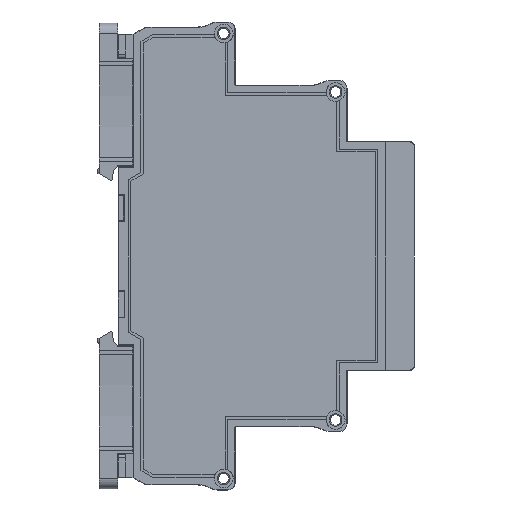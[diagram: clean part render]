
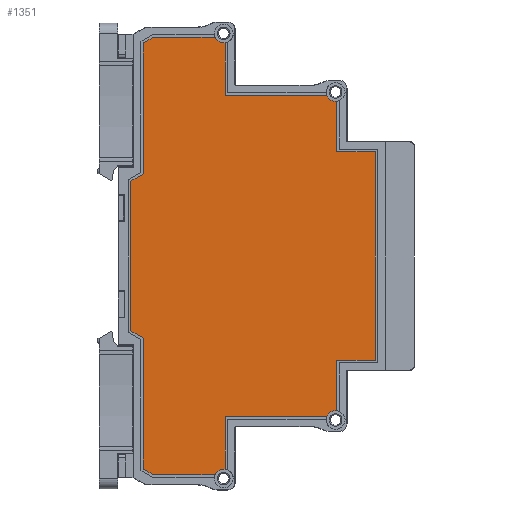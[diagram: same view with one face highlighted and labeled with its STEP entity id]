
A CAD part, front view. The second image highlights one B-rep face of the part: STEP entity #1351.
In plain terms, the highlighted planar face has unit normal (0, -1, 0) as drawn and (1, 0, 0) by its records, which use the part's own axes.
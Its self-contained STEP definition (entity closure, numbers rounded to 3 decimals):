
#1351=ADVANCED_FACE('',(#27280),#27282,.T.);
#27280=FACE_BOUND('',#27281,.T.);
#27281=EDGE_LOOP('',(#47124,#47125,#47126,#47127,#47128,#47129,#47130,#47131,#47132,
#47133,#47134,#47135,#47136,#47137,#47138,#47139,#47140,#47141,#47142,#47143,#47144,
#47145));
#27282=PLANE('',#27283);
#27283=AXIS2_PLACEMENT_3D('',#27284,#27285,#27286);
#27284=CARTESIAN_POINT('',(6.5,0.,0.));
#27285=DIRECTION('',(1.,0.,0.));
#27286=DIRECTION('',(0.,0.,-1.));
#47124=ORIENTED_EDGE('',*,*,#65601,.F.);
#47125=ORIENTED_EDGE('',*,*,#65602,.T.);
#47126=ORIENTED_EDGE('',*,*,#65519,.F.);
#47127=ORIENTED_EDGE('',*,*,#65603,.T.);
#47128=ORIENTED_EDGE('',*,*,#65604,.T.);
#47129=ORIENTED_EDGE('',*,*,#65605,.T.);
#47130=ORIENTED_EDGE('',*,*,#65606,.T.);
#47131=ORIENTED_EDGE('',*,*,#65607,.T.);
#47132=ORIENTED_EDGE('',*,*,#65503,.F.);
#47133=ORIENTED_EDGE('',*,*,#65608,.F.);
#47134=ORIENTED_EDGE('',*,*,#65609,.T.);
#47135=ORIENTED_EDGE('',*,*,#65513,.F.);
#47136=ORIENTED_EDGE('',*,*,#65610,.T.);
#47137=ORIENTED_EDGE('',*,*,#65611,.F.);
#47138=ORIENTED_EDGE('',*,*,#65612,.T.);
#47139=ORIENTED_EDGE('',*,*,#65613,.T.);
#47140=ORIENTED_EDGE('',*,*,#65614,.T.);
#47141=ORIENTED_EDGE('',*,*,#65615,.T.);
#47142=ORIENTED_EDGE('',*,*,#65616,.T.);
#47143=ORIENTED_EDGE('',*,*,#65617,.F.);
#47144=ORIENTED_EDGE('',*,*,#65618,.T.);
#47145=ORIENTED_EDGE('',*,*,#65529,.F.);
#65503=EDGE_CURVE('',#73736,#73721,#73738,.T.);
#65513=EDGE_CURVE('',#73756,#73741,#73758,.T.);
#65519=EDGE_CURVE('',#73768,#73770,#73771,.T.);
#65529=EDGE_CURVE('',#73788,#73790,#73791,.T.);
#65601=EDGE_CURVE('',#73929,#73788,#73930,.T.);
#65602=EDGE_CURVE('',#73929,#73770,#73931,.T.);
#65603=EDGE_CURVE('',#73768,#73932,#73933,.T.);
#65604=EDGE_CURVE('',#73932,#73934,#73935,.T.);
#65605=EDGE_CURVE('',#73934,#73936,#73937,.T.);
#65606=EDGE_CURVE('',#73936,#73938,#73939,.T.);
#65607=EDGE_CURVE('',#73938,#73721,#73940,.T.);
#65608=EDGE_CURVE('',#73941,#73736,#73942,.T.);
#65609=EDGE_CURVE('',#73941,#73741,#73943,.T.);
#65610=EDGE_CURVE('',#73756,#73944,#73945,.T.);
#65611=EDGE_CURVE('',#73946,#73944,#73947,.T.);
#65612=EDGE_CURVE('',#73946,#73948,#73949,.T.);
#65613=EDGE_CURVE('',#73948,#73950,#73951,.T.);
#65614=EDGE_CURVE('',#73950,#73952,#73953,.T.);
#65615=EDGE_CURVE('',#73952,#73954,#73955,.T.);
#65616=EDGE_CURVE('',#73954,#73956,#73957,.T.);
#65617=EDGE_CURVE('',#73958,#73956,#73959,.T.);
#65618=EDGE_CURVE('',#73958,#73790,#73960,.T.);
#73721=VERTEX_POINT('',#88055);
#73736=VERTEX_POINT('',#88088);
#73738=CIRCLE('',#88092,1.85);
#73741=VERTEX_POINT('',#88101);
#73756=VERTEX_POINT('',#88134);
#73758=CIRCLE('',#88138,1.85);
#73768=VERTEX_POINT('',#88162);
#73770=VERTEX_POINT('',#88166);
#73771=CIRCLE('',#88167,1.85);
#73788=VERTEX_POINT('',#88208);
#73790=VERTEX_POINT('',#88212);
#73791=CIRCLE('',#88213,1.85);
#73929=VERTEX_POINT('',#88517);
#73930=LINE('',#88518,#88519);
#73931=LINE('',#88521,#88522);
#73932=VERTEX_POINT('',#88524);
#73933=LINE('',#88525,#88526);
#73934=VERTEX_POINT('',#88528);
#73935=LINE('',#88529,#88530);
#73936=VERTEX_POINT('',#88532);
#73937=LINE('',#88533,#88534);
#73938=VERTEX_POINT('',#88536);
#73939=LINE('',#88537,#88538);
#73940=LINE('',#88540,#88541);
#73941=VERTEX_POINT('',#88543);
#73942=LINE('',#88544,#88545);
#73943=LINE('',#88547,#88548);
#73944=VERTEX_POINT('',#88550);
#73945=LINE('',#88551,#88552);
#73946=VERTEX_POINT('',#88554);
#73947=LINE('',#88555,#88556);
#73948=VERTEX_POINT('',#88558);
#73949=LINE('',#88559,#88560);
#73950=VERTEX_POINT('',#88562);
#73951=LINE('',#88563,#88564);
#73952=VERTEX_POINT('',#88566);
#73953=LINE('',#88567,#88568);
#73954=VERTEX_POINT('',#88570);
#73955=LINE('',#88571,#88572);
#73956=VERTEX_POINT('',#88574);
#73957=LINE('',#88575,#88576);
#73958=VERTEX_POINT('',#88578);
#73959=LINE('',#88579,#88580);
#73960=LINE('',#88582,#88583);
#88055=CARTESIAN_POINT('',(6.5,-30.541,38.985));
#88088=CARTESIAN_POINT('',(6.5,-31.7,37.015));
#88092=AXIS2_PLACEMENT_3D('',#88093,#88094,#88095);
#88093=CARTESIAN_POINT('',(6.5,-32.375,38.738));
#88094=DIRECTION('',(1.,0.,0.));
#88095=DIRECTION('',(0.,0.365,-0.931));
#88101=CARTESIAN_POINT('',(6.5,-42.103,16.897));
#88134=CARTESIAN_POINT('',(6.5,-43.2,14.953));
#88138=AXIS2_PLACEMENT_3D('',#88139,#88140,#88141);
#88139=CARTESIAN_POINT('',(6.5,-43.937,16.65));
#88140=DIRECTION('',(1.,0.,0.));
#88141=DIRECTION('',(0.,0.398,-0.917));
#88162=CARTESIAN_POINT('',(6.5,30.541,38.985));
#88166=CARTESIAN_POINT('',(6.5,31.7,37.015));
#88167=AXIS2_PLACEMENT_3D('',#88168,#88169,#88170);
#88168=CARTESIAN_POINT('',(6.5,32.375,38.738));
#88169=DIRECTION('',(1.,0.,0.));
#88170=DIRECTION('',(0.,-0.991,0.134));
#88208=CARTESIAN_POINT('',(6.5,42.103,16.897));
#88212=CARTESIAN_POINT('',(6.5,43.2,14.953));
#88213=AXIS2_PLACEMENT_3D('',#88214,#88215,#88216);
#88214=CARTESIAN_POINT('',(6.5,43.937,16.65));
#88215=DIRECTION('',(1.,0.,0.));
#88216=DIRECTION('',(0.,-0.991,0.134));
#88517=CARTESIAN_POINT('',(6.5,31.7,16.897));
#88518=CARTESIAN_POINT('',(6.5,31.7,16.897));
#88519=VECTOR('',#88520,1.);
#88520=DIRECTION('',(0.,1.,0.));
#88521=CARTESIAN_POINT('',(6.5,31.7,16.897));
#88522=VECTOR('',#88523,1.);
#88523=DIRECTION('',(0.,0.,1.));
#88524=CARTESIAN_POINT('',(6.5,20.6,38.985));
#88525=CARTESIAN_POINT('',(6.5,30.541,38.985));
#88526=VECTOR('',#88527,1.);
#88527=DIRECTION('',(0.,-1.,0.));
#88528=CARTESIAN_POINT('',(6.5,20.6,46.53));
#88529=CARTESIAN_POINT('',(6.5,20.6,38.985));
#88530=VECTOR('',#88531,1.);
#88531=DIRECTION('',(0.,0.,1.));
#88532=CARTESIAN_POINT('',(6.5,-20.6,46.53));
#88533=CARTESIAN_POINT('',(6.5,20.6,46.53));
#88534=VECTOR('',#88535,1.);
#88535=DIRECTION('',(0.,-1.,0.));
#88536=CARTESIAN_POINT('',(6.5,-20.6,38.985));
#88537=CARTESIAN_POINT('',(6.5,-20.6,46.53));
#88538=VECTOR('',#88539,1.);
#88539=DIRECTION('',(0.,0.,-1.));
#88540=CARTESIAN_POINT('',(6.5,-20.6,38.985));
#88541=VECTOR('',#88542,1.);
#88542=DIRECTION('',(0.,-1.,0.));
#88543=CARTESIAN_POINT('',(6.5,-31.7,16.897));
#88544=CARTESIAN_POINT('',(6.5,-31.7,16.897));
#88545=VECTOR('',#88546,1.);
#88546=DIRECTION('',(0.,0.,1.));
#88547=CARTESIAN_POINT('',(6.5,-31.7,16.897));
#88548=VECTOR('',#88549,1.);
#88549=DIRECTION('',(0.,-1.,0.));
#88550=CARTESIAN_POINT('',(6.5,-43.2,2.761));
#88551=CARTESIAN_POINT('',(6.5,-43.2,14.953));
#88552=VECTOR('',#88553,1.);
#88553=DIRECTION('',(0.,0.,-1.));
#88554=CARTESIAN_POINT('',(6.5,-42.068,0.8));
#88555=CARTESIAN_POINT('',(6.5,-42.068,0.8));
#88556=VECTOR('',#88557,1.);
#88557=DIRECTION('',(0.,-0.5,0.866));
#88558=CARTESIAN_POINT('',(6.5,-16.211,0.8));
#88559=CARTESIAN_POINT('',(6.5,-42.068,0.8));
#88560=VECTOR('',#88561,1.);
#88561=DIRECTION('',(0.,1.,0.));
#88562=CARTESIAN_POINT('',(6.5,-14.768,-1.7));
#88563=CARTESIAN_POINT('',(6.5,-16.211,0.8));
#88564=VECTOR('',#88565,1.);
#88565=DIRECTION('',(0.,0.5,-0.866));
#88566=CARTESIAN_POINT('',(6.5,14.768,-1.7));
#88567=CARTESIAN_POINT('',(6.5,-14.768,-1.7));
#88568=VECTOR('',#88569,1.);
#88569=DIRECTION('',(0.,1.,0.));
#88570=CARTESIAN_POINT('',(6.5,16.211,0.8));
#88571=CARTESIAN_POINT('',(6.5,14.768,-1.7));
#88572=VECTOR('',#88573,1.);
#88573=DIRECTION('',(0.,0.5,0.866));
#88574=CARTESIAN_POINT('',(6.5,42.068,0.8));
#88575=CARTESIAN_POINT('',(6.5,16.211,0.8));
#88576=VECTOR('',#88577,1.);
#88577=DIRECTION('',(0.,1.,0.));
#88578=CARTESIAN_POINT('',(6.5,43.2,2.761));
#88579=CARTESIAN_POINT('',(6.5,43.2,2.761));
#88580=VECTOR('',#88581,1.);
#88581=DIRECTION('',(0.,-0.5,-0.866));
#88582=CARTESIAN_POINT('',(6.5,43.2,2.761));
#88583=VECTOR('',#88584,1.);
#88584=DIRECTION('',(0.,0.,1.));
